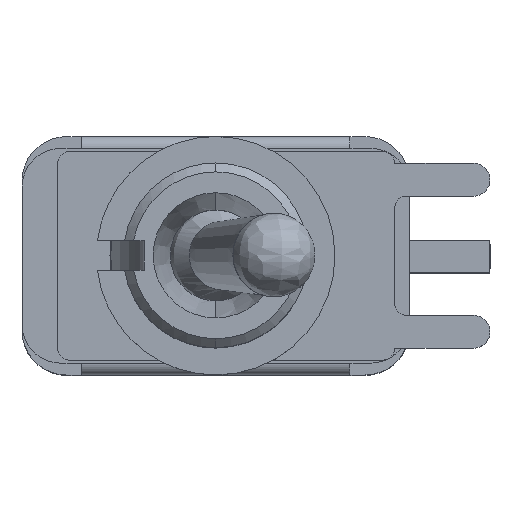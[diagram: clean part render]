
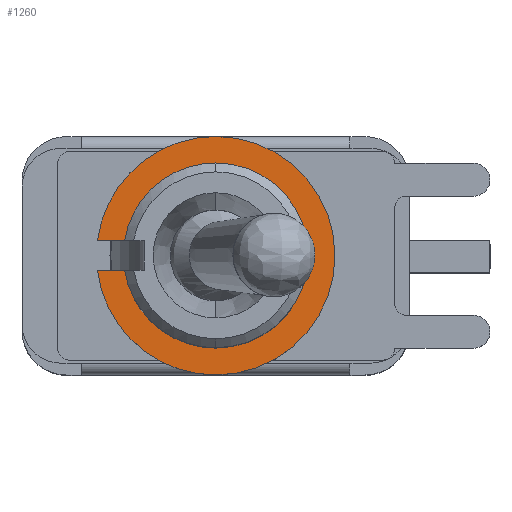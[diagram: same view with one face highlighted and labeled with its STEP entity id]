
A CAD part, top view. The second image highlights one B-rep face of the part: STEP entity #1260.
In plain terms, the highlighted planar face has unit normal (0, 0, 1) as drawn and (0, 1, 0) by its records, which use the part's own axes.
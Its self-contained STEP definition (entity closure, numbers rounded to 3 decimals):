
#44 = DIRECTION ( 'NONE',  ( 0., 0., -1. ) ) ;
#91 = ORIENTED_EDGE ( 'NONE', *, *, #15818, .T. ) ;
#215 = CIRCLE ( 'NONE', #7724, 4. ) ;
#532 = AXIS2_PLACEMENT_3D ( 'NONE', #7828, #2798, #1747 ) ;
#827 = EDGE_LOOP ( 'NONE', ( #6618, #6903, #5009, #15326, #91, #1597, #16005, #8757 ) ) ;
#931 = VERTEX_POINT ( 'NONE', #5825 ) ;
#1229 = FACE_OUTER_BOUND ( 'NONE', #827, .T. ) ;
#1260 = ADVANCED_FACE ( 'NONE', ( #1229 ), #1570, .T. ) ;
#1570 = PLANE ( 'NONE',  #8513 ) ;
#1597 = ORIENTED_EDGE ( 'NONE', *, *, #8566, .T. ) ;
#1747 = DIRECTION ( 'NONE',  ( 0., 0., -1. ) ) ;
#1853 = DIRECTION ( 'NONE',  ( 0., 0., -1. ) ) ;
#2798 = DIRECTION ( 'NONE',  ( 0., 1., 0. ) ) ;
#2967 = EDGE_CURVE ( 'NONE', #931, #3566, #5965, .T. ) ;
#3104 = DIRECTION ( 'NONE',  ( 0., 1., 0. ) ) ;
#3145 = VERTEX_POINT ( 'NONE', #6325 ) ;
#3401 = EDGE_CURVE ( 'NONE', #15845, #6675, #11270, .T. ) ;
#3470 = LINE ( 'NONE', #3613, #6394 ) ;
#3566 = VERTEX_POINT ( 'NONE', #15607 ) ;
#3613 = CARTESIAN_POINT ( 'NONE',  ( 3.55, 1., -0.5 ) ) ;
#3786 = CARTESIAN_POINT ( 'NONE',  ( 0., 1., -3.1 ) ) ;
#4200 = DIRECTION ( 'NONE',  ( 0., 1., 0. ) ) ;
#4231 = EDGE_CURVE ( 'NONE', #12915, #13103, #8862, .T. ) ;
#4955 = CARTESIAN_POINT ( 'NONE',  ( 3.969, 1., 0.5 ) ) ;
#5009 = ORIENTED_EDGE ( 'NONE', *, *, #6177, .F. ) ;
#5067 = VECTOR ( 'NONE', #5455, 1000. ) ;
#5450 = DIRECTION ( 'NONE',  ( 0., 0., 1. ) ) ;
#5455 = DIRECTION ( 'NONE',  ( 1., 0., 0. ) ) ;
#5825 = CARTESIAN_POINT ( 'NONE',  ( 0., 1., 3.1 ) ) ;
#5965 = CIRCLE ( 'NONE', #15351, 3.1 ) ;
#6177 = EDGE_CURVE ( 'NONE', #13103, #931, #6212, .T. ) ;
#6212 = CIRCLE ( 'NONE', #10611, 3.1 ) ;
#6276 = CARTESIAN_POINT ( 'NONE',  ( 0., 1., -4. ) ) ;
#6325 = CARTESIAN_POINT ( 'NONE',  ( 3.969, 1., -0.5 ) ) ;
#6394 = VECTOR ( 'NONE', #13890, 1000. ) ;
#6618 = ORIENTED_EDGE ( 'NONE', *, *, #14069, .F. ) ;
#6675 = VERTEX_POINT ( 'NONE', #11964 ) ;
#6903 = ORIENTED_EDGE ( 'NONE', *, *, #2967, .F. ) ;
#6949 = VERTEX_POINT ( 'NONE', #4955 ) ;
#7163 = DIRECTION ( 'NONE',  ( 0., 1., 0. ) ) ;
#7724 = AXIS2_PLACEMENT_3D ( 'NONE', #13569, #15992, #16103 ) ;
#7828 = CARTESIAN_POINT ( 'NONE',  ( 0., 1., 0. ) ) ;
#8371 = DIRECTION ( 'NONE',  ( 0., 0., -1. ) ) ;
#8513 = AXIS2_PLACEMENT_3D ( 'NONE', #10511, #4200, #5450 ) ;
#8566 = EDGE_CURVE ( 'NONE', #3145, #15845, #13045, .T. ) ;
#8588 = CARTESIAN_POINT ( 'NONE',  ( 0., 1., 0. ) ) ;
#8697 = CARTESIAN_POINT ( 'NONE',  ( 0., 1., 0. ) ) ;
#8701 = EDGE_CURVE ( 'NONE', #6675, #6949, #215, .T. ) ;
#8757 = ORIENTED_EDGE ( 'NONE', *, *, #8701, .T. ) ;
#8808 = AXIS2_PLACEMENT_3D ( 'NONE', #8697, #14955, #44 ) ;
#8862 = CIRCLE ( 'NONE', #8808, 3.1 ) ;
#8901 = AXIS2_PLACEMENT_3D ( 'NONE', #12647, #15215, #12806 ) ;
#10511 = CARTESIAN_POINT ( 'NONE',  ( 3.55, 1., 0. ) ) ;
#10611 = AXIS2_PLACEMENT_3D ( 'NONE', #14656, #3104, #1853 ) ;
#11270 = CIRCLE ( 'NONE', #8901, 4. ) ;
#11964 = CARTESIAN_POINT ( 'NONE',  ( 0., 1., 4. ) ) ;
#12483 = CARTESIAN_POINT ( 'NONE',  ( 3.059, 1., -0.5 ) ) ;
#12647 = CARTESIAN_POINT ( 'NONE',  ( 0., 1., 0. ) ) ;
#12806 = DIRECTION ( 'NONE',  ( 0., 0., -1. ) ) ;
#12915 = VERTEX_POINT ( 'NONE', #12483 ) ;
#13045 = CIRCLE ( 'NONE', #532, 4. ) ;
#13103 = VERTEX_POINT ( 'NONE', #3786 ) ;
#13569 = CARTESIAN_POINT ( 'NONE',  ( 0., 1., 0. ) ) ;
#13890 = DIRECTION ( 'NONE',  ( 1., 0., 0. ) ) ;
#14069 = EDGE_CURVE ( 'NONE', #3566, #6949, #14535, .T. ) ;
#14535 = LINE ( 'NONE', #15530, #5067 ) ;
#14656 = CARTESIAN_POINT ( 'NONE',  ( 0., 1., 0. ) ) ;
#14955 = DIRECTION ( 'NONE',  ( 0., 1., 0. ) ) ;
#15215 = DIRECTION ( 'NONE',  ( 0., 1., 0. ) ) ;
#15326 = ORIENTED_EDGE ( 'NONE', *, *, #4231, .F. ) ;
#15351 = AXIS2_PLACEMENT_3D ( 'NONE', #8588, #7163, #8371 ) ;
#15530 = CARTESIAN_POINT ( 'NONE',  ( 2.905, 1., 0.5 ) ) ;
#15607 = CARTESIAN_POINT ( 'NONE',  ( 3.059, 1., 0.5 ) ) ;
#15818 = EDGE_CURVE ( 'NONE', #12915, #3145, #3470, .T. ) ;
#15845 = VERTEX_POINT ( 'NONE', #6276 ) ;
#15992 = DIRECTION ( 'NONE',  ( 0., 1., 0. ) ) ;
#16005 = ORIENTED_EDGE ( 'NONE', *, *, #3401, .T. ) ;
#16103 = DIRECTION ( 'NONE',  ( 0., 0., -1. ) ) ;
